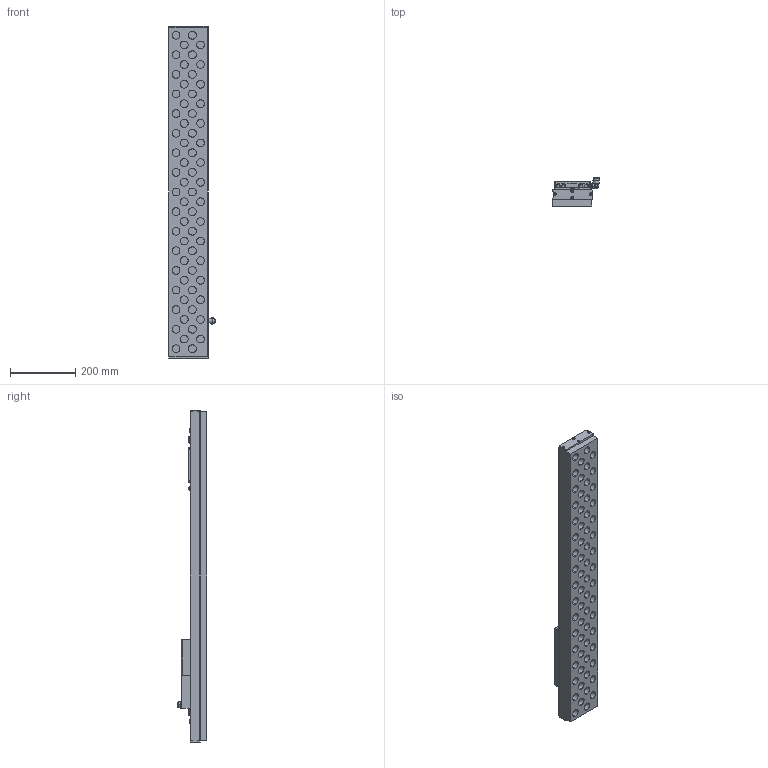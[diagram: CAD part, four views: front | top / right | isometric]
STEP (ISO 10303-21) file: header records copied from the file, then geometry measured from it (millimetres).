
FILE_DESCRIPTION (( 'STEP AP214' ), '1' );
FILE_NAME ('311 000 013.STEP', '2018-01-10T09:41:26', ( '' ), ( '' ), 'SwSTEP 2.0', 'SolidWorks 2017', '' );
FILE_SCHEMA (( 'AUTOMOTIVE_DESIGN' ));
Length unit declared in the file: millimetre
Products named in the file (1): 311 000 013
Bounding box: 142.75 x 89 x 1016 mm (x, y, z)
Volume: 6137291.1 mm3; surface area: 503715 mm2
Topology: 1 solids, 3 shells, 921 faces, 2099 edges, 1308 vertices
Faces by surface type: cylinder 420, plane 323, torus 117, cone 48, sphere 7, bspline 6
Entity records: 36579 total; most frequent: CARTESIAN_POINT 5023, DIRECTION 4945, ORIENTED_EDGE 4168, EDGE_CURVE 2084, AXIS2_PLACEMENT_3D 2025, VERTEX_POINT 1299, CIRCLE 1109, EDGE_LOOP 1051
